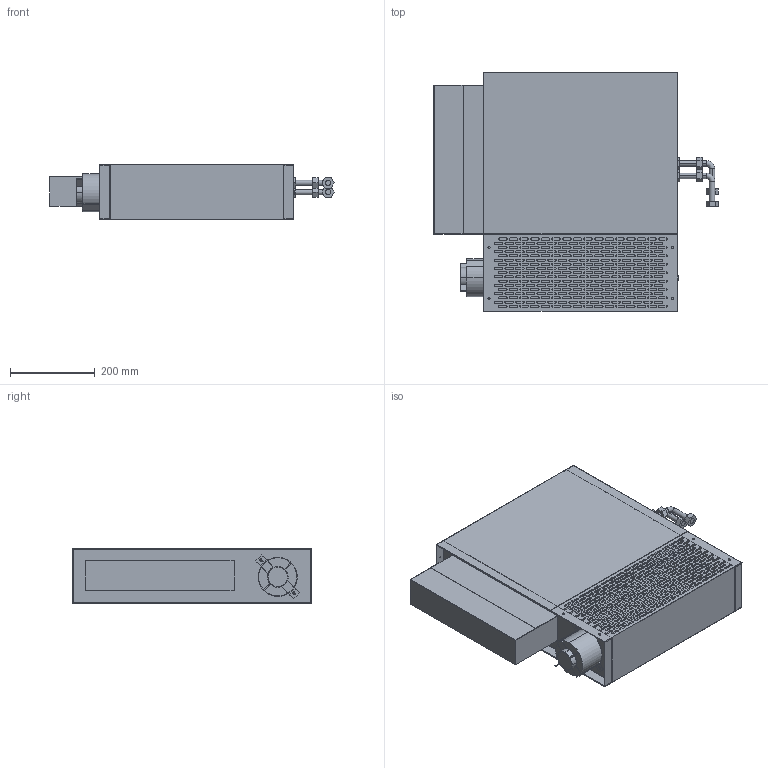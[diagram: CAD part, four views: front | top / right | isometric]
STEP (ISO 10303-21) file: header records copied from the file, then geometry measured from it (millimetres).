
FILE_DESCRIPTION (( 'STEP AP214' ), '1' );
FILE_NAME ('PFWSLA-01-2pipe_v2.STEP', '2024-10-22T13:49:13', ( '' ), ( '' ), 'SwSTEP 2.0', 'SolidWorks 2023', '' );
FILE_SCHEMA (( 'AUTOMOTIVE_DESIGN' ));
Length unit declared in the file: inch
Products named in the file (1): PFWSLA-01-2pipe_v2
Bounding box: 670.01 x 561.98 x 130.18 mm (x, y, z)
Volume: 11144688.9 mm3; surface area: 2427716.5 mm2
Topology: 24 solids, 24 shells, 2223 faces, 6193 edges, 4112 vertices
Faces by surface type: plane 1254, cylinder 965, torus 4
Entity records: 73099 total; most frequent: DIRECTION 12585, CARTESIAN_POINT 12529, ORIENTED_EDGE 12386, EDGE_CURVE 6193, LINE 4249, VECTOR 4249, AXIS2_PLACEMENT_3D 4168, VERTEX_POINT 4112
